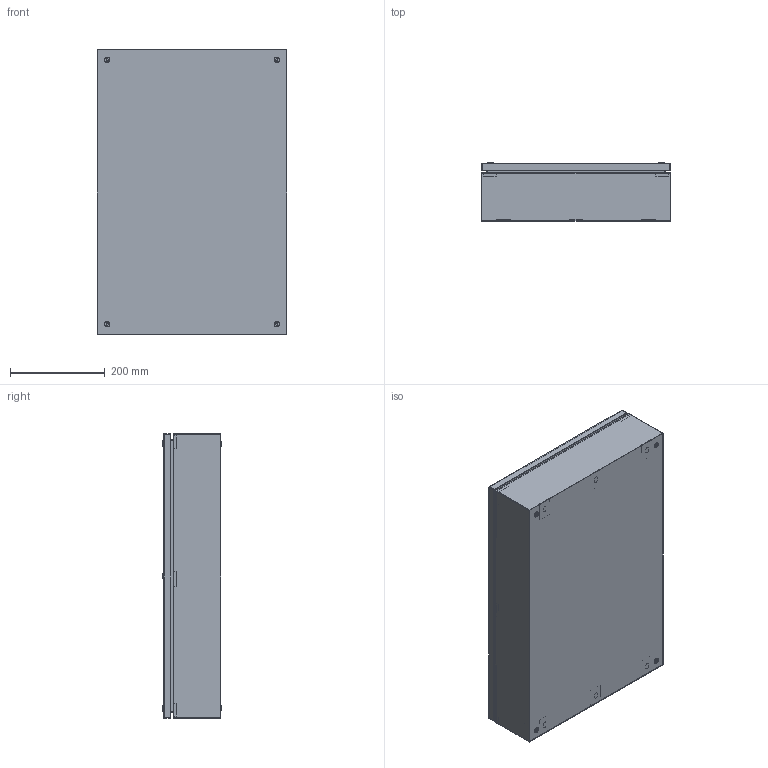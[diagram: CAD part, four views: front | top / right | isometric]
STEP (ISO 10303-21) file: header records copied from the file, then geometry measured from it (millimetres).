
FILE_DESCRIPTION(('Open CASCADE Model'),'2;1');
FILE_NAME('Open CASCADE Shape Model','2025-11-12T17:52:01',('Author'),( 'Open CASCADE'),'Open CASCADE STEP processor 7.8','Open CASCADE 7.8' ,'Unknown');
FILE_SCHEMA(('AUTOMOTIVE_DESIGN { 1 0 10303 214 1 1 1 1 }'));
Length unit declared in the file: millimetre
Products named in the file (17): Compound1; Compound2; Compound3; Solid1; Solid2; Solid3; Solid4; Solid5; Solid6; Compound4; Compound5; Solid7; Solid8; Solid9; Solid10; Solid11; Solid12
Assembly tree (39 placements, depth 5):
  Compound1
    Compound2
      Compound3
        Solid1
        Solid2  x2
        Solid3  x2
        Solid4  x2
        Solid5
        Solid6  x2
      Compound4
        Compound5
          Solid7
          Solid5
        Solid8
      Solid9  x6
      Solid10  x6
      Solid11  x6
    Solid12  x4
Bounding box: 400 x 123.79 x 600 mm (x, y, z)
Volume: 1154136.5 mm3; surface area: 1701768.5 mm2
Topology: 35 solids, 35 shells, 1264 faces, 3424 edges, 2264 vertices
Faces by surface type: plane 916, cylinder 196, cone 68, torus 40, bspline 32, sphere 12
Full cylindrical faces by diameter (mm): 1.5 x4, 4 x30, 4.134 x6, 5 x10, 5.2 x6, 5.3 x6, 5.5 x6, 6 x2, 6.5 x4, 7.5 x8, 8 x10, 8.5 x6, 11.5 x4, 13.5 x6, 15.791 x6
Entity records: 17260 total; most frequent: CARTESIAN_POINT 4703, ORIENTED_EDGE 2612, DIRECTION 2401, EDGE_CURVE 1306, LINE 877, VECTOR 877, VERTEX_POINT 864, AXIS2_PLACEMENT_3D 762
